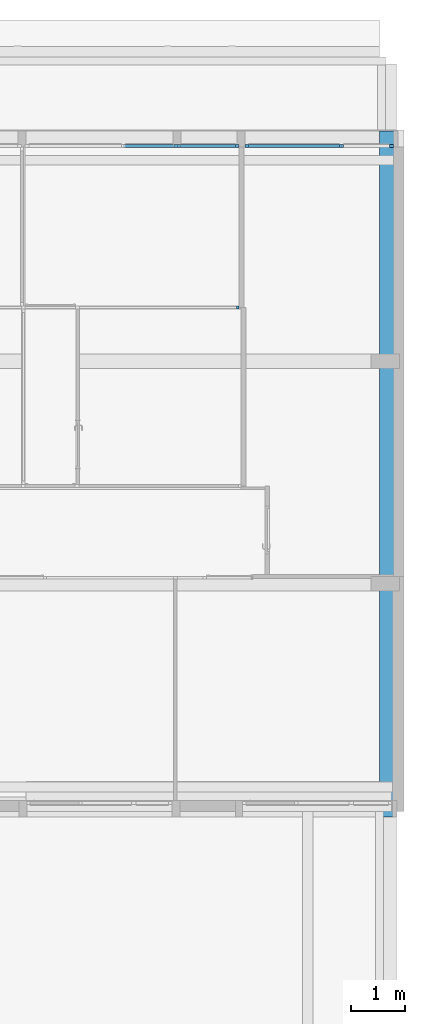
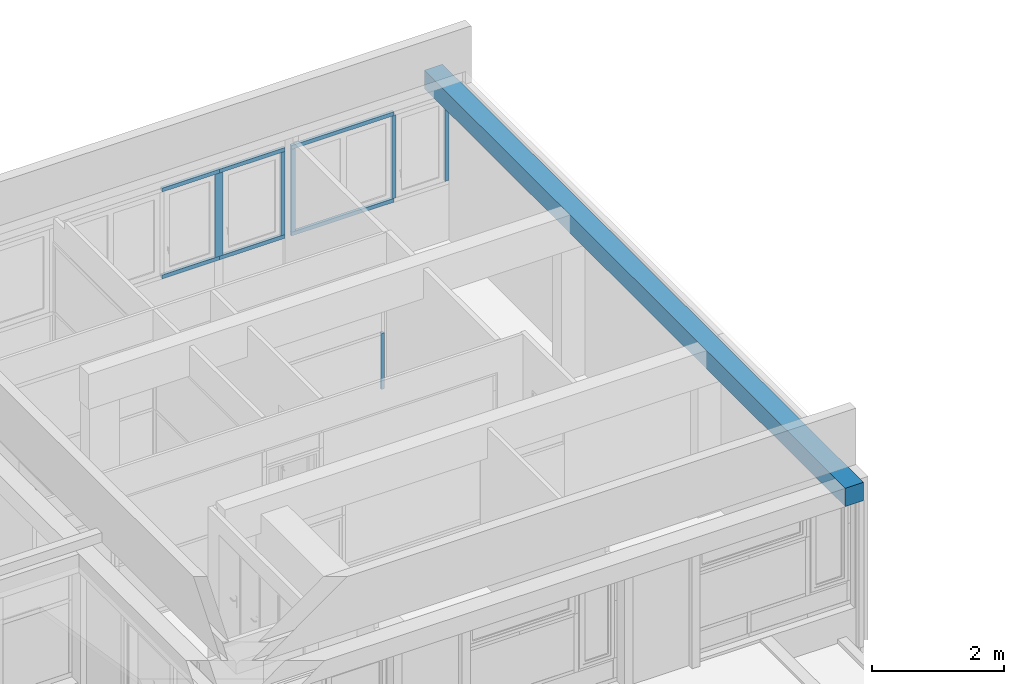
# One storey, part 13 of 49: 12 members, 1 beam, 3 elements without a shape of their own.
"""IFC4 building model written with IfcOpenShell, lengths in metres."""

import ifcopenshell
import ifcopenshell.guid

model = None  # the IFC model being written
_history = None  # IfcOwnerHistory: only IFC2X3 demands one
_inside = {}  # id of a spatial element -> (the spatial element, [elements in it])
_under = {}  # id of a project, library or spatial element -> (it, [spatial elements below it])
_declared = {}  # id of a project -> (the project, [libraries it declares])
_typed = {}  # id of a type object -> (the type object, [elements of that type])
_made_of = {}  # id of a material, layer set ... -> (it, [elements and type objects made of it])


def new_model(schema):
    """Start an empty IFC model of exactly this schema.

    Asked for "IFC4X3", IfcOpenShell would pick the latest addendum, in which some entities
    have other attributes; the version numbers below select the first issue.
    IFC2X3 requires an IfcOwnerHistory on every rooted entity: one is made here for all.
    """
    global model, _history
    if schema == "IFC4X3":
        model = ifcopenshell.file(schema_version=(4, 3, 0, 0))
    else:
        model = ifcopenshell.file(schema=schema)
    _inside.clear()
    _under.clear()
    _declared.clear()
    _typed.clear()
    _made_of.clear()
    _history = None
    if model.schema == "IFC2X3":
        org = make("IfcOrganization", Name="unknown")
        user = make(
            "IfcPersonAndOrganization",
            ThePerson=make("IfcPerson", FamilyName="unknown"),
            TheOrganization=org,
        )
        app = make(
            "IfcApplication",
            ApplicationDeveloper=org,
            Version="unknown",
            ApplicationFullName="unknown",
            ApplicationIdentifier="unknown",
        )
        _history = make(
            "IfcOwnerHistory",
            OwningUser=user,
            OwningApplication=app,
            ChangeAction="ADDED",
            CreationDate=0,
        )
    return model


def make(cls, **values):
    """One entity of the class cls with the attributes given. An attribute that is None is left unset."""
    return model.create_entity(
        cls, **{name: value for name, value in values.items() if value is not None}
    )


def entity(cls, *values):
    """Any entity or typed value of the class cls, its attributes in the order of the schema. None: left unset."""
    e = model.create_entity(cls)
    for i, value in enumerate(values):
        if value is not None:
            e[i] = value
    return e


def rooted(cls, **values):
    """An entity with a GlobalId (a new one), such as an element, a storey or a relation."""
    return make(cls, GlobalId=ifcopenshell.guid.new(), OwnerHistory=_history, **values)


def si_unit(unit_type, name, prefix=None):
    """IfcSIUnit, for example si_unit("LENGTHUNIT", "METRE", prefix="MILLI")."""
    return make("IfcSIUnit", UnitType=unit_type, Prefix=prefix, Name=name)


def converted_unit(unit_type, name, factor, base, dimensions=None, offset=None):
    """IfcConversionBasedUnit, such as the inch: factor (a typed value) times the base unit."""
    return make(
        "IfcConversionBasedUnit"
        if offset is None
        else "IfcConversionBasedUnitWithOffset",
        ConversionOffset=offset,
        Dimensions=None
        if dimensions is None
        else entity("IfcDimensionalExponents", *dimensions),
        UnitType=unit_type,
        Name=name,
        ConversionFactor=make(
            "IfcMeasureWithUnit", ValueComponent=factor, UnitComponent=base
        ),
    )


def derived_unit(unit_type, elements):
    """IfcDerivedUnit: a product of units, each with its exponent."""
    return make(
        "IfcDerivedUnit",
        Elements=[
            make("IfcDerivedUnitElement", Unit=unit, Exponent=power)
            for unit, power in elements
        ],
        UnitType=unit_type,
    )


def assignment(units):
    """IfcUnitAssignment: the units of a project."""
    return None if units is None else make("IfcUnitAssignment", Units=units)


def point(xyz):
    """IfcCartesianPoint."""
    return None if xyz is None else make("IfcCartesianPoint", Coordinates=xyz)


def direction(xyz):
    """IfcDirection."""
    return None if xyz is None else make("IfcDirection", DirectionRatios=xyz)


def frame(location, z_axis=None, x_axis=None):
    """IfcAxis2Placement3D, a coordinate frame: its origin and axes. An axis left out is left unset."""
    return make(
        "IfcAxis2Placement3D",
        Location=point(location),
        Axis=direction(z_axis),
        RefDirection=direction(x_axis),
    )


def origin():
    """The frame at (0, 0, 0) with its axes left unset."""
    return frame((0.0, 0.0, 0.0))


def place(relative_to, where):
    """IfcLocalPlacement: puts the frame where relative to a parent placement (None: the world)."""
    return make(
        "IfcLocalPlacement", PlacementRelTo=relative_to, RelativePlacement=where
    )


def context(
    kind, dimensions, precision=None, world=None, true_north=None, identifier=None
):
    """IfcGeometricRepresentationContext, for example the 3D "Model" context."""
    return make(
        "IfcGeometricRepresentationContext",
        ContextIdentifier=identifier,
        ContextType=kind,
        CoordinateSpaceDimension=dimensions,
        Precision=precision,
        WorldCoordinateSystem=world,
        TrueNorth=true_north,
    )


def subcontext(parent, identifier, kind, view, scale=None):
    """IfcGeometricRepresentationSubContext, for example "Body" below "Model"."""
    return make(
        "IfcGeometricRepresentationSubContext",
        ContextIdentifier=identifier,
        ContextType=kind,
        ParentContext=parent,
        TargetScale=scale,
        TargetView=view,
    )


def project(units=None, contexts=None):
    """IfcProject with its units and contexts."""
    return rooted(
        "IfcProject",
        Name="project",
        RepresentationContexts=contexts,
        UnitsInContext=assignment(units),
    )


def spatial(cls, under=None, at=None, **own):
    """A site, building, storey or space (cls), placed at a placement, below another one or the project."""
    s = rooted(cls, ObjectPlacement=at, **own)
    if under is not None:
        _under.setdefault(under.id(), (under, []))[1].append(s)
    return s


def point_list(points):
    """IfcCartesianPointList2D or 3D."""
    cls = (
        "IfcCartesianPointList2D" if len(points[0]) == 2 else "IfcCartesianPointList3D"
    )
    return make(cls, CoordList=points)


def indexed_curve(points, segments=None, self_intersect=None):
    """IfcIndexedPolyCurve: lines and arcs through numbered points (the first is 1)."""
    return make(
        "IfcIndexedPolyCurve",
        Points=point_list(points),
        Segments=segments,
        SelfIntersect=self_intersect,
    )


def outline(outer, holes=None, kind="AREA"):
    """IfcArbitraryClosedProfileDef: a profile drawn as a closed curve; with holes, ...WithVoids."""
    if holes is None:
        return make("IfcArbitraryClosedProfileDef", ProfileType=kind, OuterCurve=outer)
    return make(
        "IfcArbitraryProfileDefWithVoids",
        ProfileType=kind,
        OuterCurve=outer,
        InnerCurves=holes,
    )


def extrude(swept, where, along, depth):
    """IfcExtrudedAreaSolid: the profile swept, set in the frame where, extruded along a direction by depth."""
    return make(
        "IfcExtrudedAreaSolid",
        SweptArea=swept,
        Position=where,
        ExtrudedDirection=direction(along),
        Depth=depth,
    )


def shape(context_of_items, identifier, shape_type, items):
    """IfcShapeRepresentation: the items that make up one representation, for example the "Body"."""
    return make(
        "IfcShapeRepresentation",
        ContextOfItems=context_of_items,
        RepresentationIdentifier=identifier,
        RepresentationType=shape_type,
        Items=items,
    )


def source(mapping_origin, context_of_items, identifier, shape_type, items):
    """IfcRepresentationMap: a shape defined once, which mapped items show again and again."""
    return make(
        "IfcRepresentationMap",
        MappingOrigin=mapping_origin,
        MappedRepresentation=shape(context_of_items, identifier, shape_type, items),
    )


def transform(
    local_origin,
    x_axis=None,
    y_axis=None,
    z_axis=None,
    scale=None,
    scale2=None,
    scale3=None,
    uniform=True,
):
    """IfcCartesianTransformationOperator3D, or its non-uniform kind. x_axis, y_axis, z_axis: its Axis1, 2, 3."""
    if uniform:
        return make(
            "IfcCartesianTransformationOperator3D",
            Axis1=direction(x_axis),
            Axis2=direction(y_axis),
            LocalOrigin=point(local_origin),
            Scale=scale,
            Axis3=direction(z_axis),
        )
    return make(
        "IfcCartesianTransformationOperator3DnonUniform",
        Axis1=direction(x_axis),
        Axis2=direction(y_axis),
        LocalOrigin=point(local_origin),
        Scale=scale,
        Axis3=direction(z_axis),
        Scale2=scale2,
        Scale3=scale3,
    )


def mapped(mapping_source, mapping_target):
    """IfcMappedItem: shows the shape of a source again, moved by a transform."""
    return make(
        "IfcMappedItem", MappingSource=mapping_source, MappingTarget=mapping_target
    )


def material(Name=None, Category=None):
    """IfcMaterial."""
    return make("IfcMaterial", Name=Name, Category=Category)


def made_of(thing, what):
    """Note that an element or type object is made of a material, layer set ...; save() writes the relation."""
    if what is not None:
        _made_of.setdefault(what.id(), (what, []))[1].append(thing)
    return thing


def type_object(cls, material=None, **own):
    """A type object (cls), such as IfcWallType, which elements share."""
    return made_of(rooted(cls, **own), material)


def type_shapes(of_type, sources):
    """Give a type object the sources (RepresentationMaps) that its elements show as mapped items."""
    of_type.RepresentationMaps = sources


def element(
    cls,
    number,
    at=None,
    inside=None,
    cuts=None,
    type_object=None,
    material=None,
    context=None,
    identifier="Body",
    shape_type=None,
    held_by="IfcProductDefinitionShape",
    body=None,
    shapes=None,
    **own,
):
    """One element of the class cls, such as IfcWall. Its Tag is "e" and its number.

    at: its placement. inside: the storey or other place that contains it. cuts: it is an
    opening in that element (IfcRelVoidsElement). A single representation is given by context,
    identifier, shape_type and body (its items); several are given by shapes. held_by: the class
    of the entity that holds the representations. save() writes the other relations.
    """
    e = rooted(cls, Tag="e%d" % number, ObjectPlacement=at, **own)
    if body is not None:
        shapes = [shape(context, identifier, shape_type, body)]
    if shapes is not None:
        e.Representation = make(held_by, Representations=shapes)
    if inside is not None:
        _inside.setdefault(inside.id(), (inside, []))[1].append(e)
    if cuts is not None:
        rooted(
            "IfcRelVoidsElement", RelatingBuildingElement=cuts, RelatedOpeningElement=e
        )
    if type_object is not None:
        _typed.setdefault(type_object.id(), (type_object, []))[1].append(e)
    return made_of(e, material)


def aggregate(whole, parts):
    """IfcRelAggregates: a whole, such as a stair, and the parts it consists of."""
    return rooted("IfcRelAggregates", RelatingObject=whole, RelatedObjects=parts)


def save(model, path):
    """Write the relations noted so far, then the file.

    IfcRelAggregates (storeys below a building ...), IfcRelContainedInSpatialStructure (elements
    in a storey), IfcRelDefinesByType, IfcRelAssociatesMaterial and IfcRelDeclares: one each for
    every whole, place, type object, material and project.
    """
    for whole, parts in _under.values():
        aggregate(whole, parts)
    for where, things in _inside.values():
        rooted(
            "IfcRelContainedInSpatialStructure",
            RelatedElements=things,
            RelatingStructure=where,
        )
    for kind, things in _typed.values():
        rooted("IfcRelDefinesByType", RelatedObjects=things, RelatingType=kind)
    for what, things in _made_of.values():
        rooted("IfcRelAssociatesMaterial", RelatedObjects=things, RelatingMaterial=what)
    for by, libraries in _declared.values():
        rooted("IfcRelDeclares", RelatingContext=by, RelatedDefinitions=libraries)
    model.write(path)


model = new_model("IFC4")

# Units and contexts
model_context = context("Model", 3, precision=1e-05, world=origin(), true_north=direction((6.12303176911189e-17, 1.0)))
body_context = subcontext(model_context, "Body", "Model", "MODEL_VIEW")
ifc_project = project(units=[si_unit("LENGTHUNIT", "METRE"), si_unit("AREAUNIT", "SQUARE_METRE"), si_unit("VOLUMEUNIT", "CUBIC_METRE"), converted_unit("PLANEANGLEUNIT", "DEGREE", entity("IfcRatioMeasure", 0.0174532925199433), si_unit("PLANEANGLEUNIT", "RADIAN"), dimensions=[0, 0, 0, 0, 0, 0, 0]), si_unit("MASSUNIT", "GRAM", prefix="KILO"), derived_unit("MASSDENSITYUNIT", [(si_unit("MASSUNIT", "GRAM", prefix="KILO"), 1), (si_unit("LENGTHUNIT", "METRE"), -3)]), derived_unit("MOMENTOFINERTIAUNIT", [(si_unit("LENGTHUNIT", "METRE"), 4)]), si_unit("TIMEUNIT", "SECOND"), si_unit("FREQUENCYUNIT", "HERTZ"), si_unit("THERMODYNAMICTEMPERATUREUNIT", "DEGREE_CELSIUS"), derived_unit("THERMALTRANSMITTANCEUNIT", [(si_unit("MASSUNIT", "GRAM", prefix="KILO"), 1), (si_unit("THERMODYNAMICTEMPERATUREUNIT", "KELVIN"), -1), (si_unit("TIMEUNIT", "SECOND"), -3)]), derived_unit("VOLUMETRICFLOWRATEUNIT", [(si_unit("LENGTHUNIT", "METRE"), 3), (si_unit("TIMEUNIT", "SECOND"), -1)]), si_unit("ELECTRICCURRENTUNIT", "AMPERE"), si_unit("ELECTRICVOLTAGEUNIT", "VOLT"), si_unit("POWERUNIT", "WATT"), si_unit("FORCEUNIT", "NEWTON", prefix="KILO"), si_unit("ILLUMINANCEUNIT", "LUX"), si_unit("LUMINOUSFLUXUNIT", "LUMEN"), si_unit("LUMINOUSINTENSITYUNIT", "CANDELA"), derived_unit("USERDEFINED", [(si_unit("MASSUNIT", "GRAM", prefix="KILO"), -1), (si_unit("LENGTHUNIT", "METRE"), -2), (si_unit("TIMEUNIT", "SECOND"), 3), (si_unit("LUMINOUSFLUXUNIT", "LUMEN"), 1)]), derived_unit("LINEARVELOCITYUNIT", [(si_unit("LENGTHUNIT", "METRE"), 1), (si_unit("TIMEUNIT", "SECOND"), -1)]), si_unit("PRESSUREUNIT", "PASCAL"), derived_unit("USERDEFINED", [(si_unit("LENGTHUNIT", "METRE"), -2), (si_unit("MASSUNIT", "GRAM", prefix="KILO"), 1), (si_unit("TIMEUNIT", "SECOND"), -2)]), derived_unit("LINEARFORCEUNIT", [(si_unit("MASSUNIT", "GRAM", prefix="KILO"), 1), (si_unit("LENGTHUNIT", "METRE"), 1), (si_unit("TIMEUNIT", "SECOND"), -2), (si_unit("LENGTHUNIT", "METRE"), -1)]), derived_unit("PLANARFORCEUNIT", [(si_unit("MASSUNIT", "GRAM", prefix="KILO"), 1), (si_unit("LENGTHUNIT", "METRE"), 1), (si_unit("TIMEUNIT", "SECOND"), -2), (si_unit("LENGTHUNIT", "METRE"), -2)])], contexts=[model_context])

# Site, building, storey
site_placement = place(None, origin())
site = spatial("IfcSite", under=ifc_project, at=site_placement, Name="Default", CompositionType="ELEMENT")
building_placement = place(site_placement, origin())
building = spatial("IfcBuilding", under=site, at=building_placement, Name="HOTEL CONSULAIRE BOULOGNE SUR MER", CompositionType="ELEMENT")
storey_placement = place(building_placement, frame((0.0, 0.0, 6.81974152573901)))
storey = spatial("IfcBuildingStorey", under=building, at=storey_placement, Name="Niveau 2", CompositionType="ELEMENT", Elevation=6.81974152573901)

# Curtain wall, members
curtain_wall_type = type_object("IfcCurtainWallType", Name="Mur-rideau:Simple panneau", PredefinedType="NOTDEFINED")
curtain_wall_1_placement = place(storey_placement, frame((0.0, 0.0, -6.81974152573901)))
curtain_wall_1 = element("IfcCurtainWall", 1, at=curtain_wall_1_placement, inside=storey, type_object=curtain_wall_type, Name="Mur-rideau:Simple panneau", ObjectType="Mur-rideau:Simple panneau", PredefinedType="NOTDEFINED")
ifc_material_1 = material(Name="PVC, souple", Category="Plastique")
member_type_1 = type_object("IfcMemberType", Name="Meneau rectangulaire:50 x 35 pvc gris", PredefinedType="MULLION", material=ifc_material_1)
shared_shape_1 = source(origin(), body_context, "Body", "SweptSolid", [
    extrude(outline(indexed_curve([(-0.025, -0.035), (0.025, -0.035), (0.025, 0.035), (-0.025, 0.035), (-0.025, -0.035)], self_intersect=False)), frame((-0.035, -0.025, -1.53628724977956), z_axis=(0.0, 0.0, 1.0), x_axis=(0.0, -1.0, 0.0)), (0.0, 0.0, 1.0), 1.53628724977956),
])
type_shapes(member_type_1, [shared_shape_1])
member_1_placement = place(storey_placement, frame((22.5979359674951, -11.5914237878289, 2.6419999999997)))
member_1 = element("IfcMember", 2, at=member_1_placement, type_object=member_type_1, material=ifc_material_1, Name="Meneau rectangulaire:50 x 35 pvc gris", ObjectType="Meneau rectangulaire:50 x 35 pvc gris", PredefinedType="MULLION", context=body_context, shape_type="MappedRepresentation", body=[
    mapped(shared_shape_1, transform((0.0, 0.0, 0.0), scale=1.0)),
])
member_type_2 = type_object("IfcMemberType", Name="Meneau rectangulaire:50 x 35 pvc gris", PredefinedType="MULLION", material=ifc_material_1)
shared_shape_2 = source(origin(), body_context, "Body", "SweptSolid", [
    extrude(outline(indexed_curve([(-0.025, -0.035), (0.025, -0.035), (0.025, 0.035), (-0.025, 0.035), (-0.025, -0.035)], self_intersect=False)), frame((-0.035, -0.025, -1.80111445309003), z_axis=(0.0, 0.0, 1.0), x_axis=(0.0, -1.0, 0.0)), (0.0, 0.0, 1.0), 1.80111445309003),
])
type_shapes(member_type_2, [shared_shape_2])
member_2_placement = place(storey_placement, frame((19.831821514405, -11.5914237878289, 2.7119999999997), z_axis=(-1.0, 0.0, 0.0), x_axis=(0.0, 0.0, 1.0)))
member_2 = element("IfcMember", 3, at=member_2_placement, type_object=member_type_2, material=ifc_material_1, Name="Meneau rectangulaire:50 x 35 pvc gris", ObjectType="Meneau rectangulaire:50 x 35 pvc gris", PredefinedType="MULLION", context=body_context, shape_type="MappedRepresentation", body=[
    mapped(shared_shape_2, transform((0.0, 0.0, 0.0), scale=1.0)),
])
member_type_3 = type_object("IfcMemberType", Name="Meneau rectangulaire:50 x 35 pvc gris", PredefinedType="MULLION", material=ifc_material_1)
shared_shape_3 = source(origin(), body_context, "Body", "SweptSolid", [
    extrude(outline(indexed_curve([(-0.025, -0.035), (0.025, -0.035), (0.025, 0.035), (-0.025, 0.035), (-0.025, -0.035)], self_intersect=False)), frame((-0.035, -0.025, -1.53628724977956), z_axis=(0.0, 0.0, 1.0), x_axis=(0.0, -1.0, 0.0)), (0.0, 0.0, 1.0), 1.53628724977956),
])
type_shapes(member_type_3, [shared_shape_3])
member_3_placement = place(storey_placement, frame((19.831821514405, -11.5914237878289, 1.10571275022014), z_axis=(0.0, 0.0, -1.0), x_axis=(-1.0, 0.0, 0.0)))
member_3 = element("IfcMember", 4, at=member_3_placement, type_object=member_type_3, material=ifc_material_1, Name="Meneau rectangulaire:50 x 35 pvc gris", ObjectType="Meneau rectangulaire:50 x 35 pvc gris", PredefinedType="MULLION", context=body_context, shape_type="MappedRepresentation", body=[
    mapped(shared_shape_3, transform((0.0, 0.0, 0.0), scale=1.0)),
])
member_type_4 = type_object("IfcMemberType", Name="Meneau rectangulaire:50 x 35 pvc gris", PredefinedType="MULLION", material=ifc_material_1)
shared_shape_4 = source(origin(), body_context, "Body", "SweptSolid", [
    extrude(outline(indexed_curve([(-0.025, -0.035), (0.025, -0.035), (0.025, 0.035), (-0.025, 0.035), (-0.025, -0.035)], self_intersect=False)), frame((-0.035, -0.025, -1.80111445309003), z_axis=(0.0, 0.0, 1.0), x_axis=(0.0, -1.0, 0.0)), (0.0, 0.0, 1.0), 1.80111445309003),
])
type_shapes(member_type_4, [shared_shape_4])
member_4_placement = place(storey_placement, frame((21.6329359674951, -11.5914237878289, 1.03571275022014), z_axis=(1.0, 0.0, 0.0), x_axis=(0.0, 0.0, -1.0)))
member_4 = element("IfcMember", 5, at=member_4_placement, type_object=member_type_4, material=ifc_material_1, Name="Meneau rectangulaire:50 x 35 pvc gris", ObjectType="Meneau rectangulaire:50 x 35 pvc gris", PredefinedType="MULLION", context=body_context, shape_type="MappedRepresentation", body=[
    mapped(shared_shape_4, transform((0.0, 0.0, 0.0), scale=1.0)),
])
ifc_material_2 = material(Name="PVC - Blanc", Category="Plastique")
member_type_5 = type_object("IfcMemberType", Name="Meneau rectangulaire:50 x 35", PredefinedType="MULLION", material=ifc_material_2)
shared_shape_5 = source(origin(), body_context, "Body", "SweptSolid", [
    extrude(outline(indexed_curve([(-0.025, -0.035), (0.025, -0.035), (0.025, 0.035), (-0.025, 0.035), (-0.025, -0.035)], self_intersect=False)), frame((0.0, -0.025, -1.53628724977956), z_axis=(0.0, 0.0, 1.0), x_axis=(0.0, -1.0, 0.0)), (0.0, 0.0, 1.0), 1.53628724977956),
])
type_shapes(member_type_5, [shared_shape_5])
member_5_placement = place(storey_placement, frame((21.6329359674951, -11.5914237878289, 1.10571275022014), z_axis=(0.0, 0.0, -1.0), x_axis=(-1.0, 0.0, 0.0)))
member_5 = element("IfcMember", 6, at=member_5_placement, type_object=member_type_5, material=ifc_material_2, Name="Meneau rectangulaire:50 x 35", ObjectType="Meneau rectangulaire:50 x 35", PredefinedType="MULLION", context=body_context, shape_type="MappedRepresentation", body=[
    mapped(shared_shape_5, transform((0.0, 0.0, 0.0), scale=1.0)),
])
aggregate(curtain_wall_1, [member_1, member_2, member_3, member_4, member_5])

curtain_wall_2_placement = place(storey_placement, frame((0.0, 0.0, -6.81974152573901)))
curtain_wall_2 = element("IfcCurtainWall", 7, at=curtain_wall_2_placement, inside=storey, type_object=curtain_wall_type, Name="Mur-rideau:Simple panneau", ObjectType="Mur-rideau:Simple panneau", PredefinedType="NOTDEFINED")
member_type_6 = type_object("IfcMemberType", Name="Meneau rectangulaire:50 x 35 pvc gris", PredefinedType="MULLION", material=ifc_material_1)
shared_shape_6 = source(origin(), body_context, "Body", "SweptSolid", [
    extrude(outline(indexed_curve([(-0.025, -0.035), (0.025, -0.035), (0.025, 0.035), (-0.025, 0.035), (-0.025, -0.035)], self_intersect=False)), frame((-0.035, -0.025, -1.54128724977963), z_axis=(0.0, 0.0, 1.0), x_axis=(0.0, -1.0, 0.0)), (0.0, 0.0, 1.0), 1.54128724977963),
])
type_shapes(member_type_6, [shared_shape_6])
member_6_placement = place(storey_placement, frame((19.722821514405, -11.5914237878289, 2.64699999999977)))
member_6 = element("IfcMember", 8, at=member_6_placement, type_object=member_type_6, material=ifc_material_1, Name="Meneau rectangulaire:50 x 35 pvc gris", ObjectType="Meneau rectangulaire:50 x 35 pvc gris", PredefinedType="MULLION", context=body_context, shape_type="MappedRepresentation", body=[
    mapped(shared_shape_6, transform((0.0, 0.0, 0.0), scale=1.0)),
])
member_type_7 = type_object("IfcMemberType", Name="Meneau rectangulaire:50 x 65 pvc gris", PredefinedType="MULLION", material=ifc_material_1)
shared_shape_7 = source(origin(), body_context, "Body", "SweptSolid", [
    extrude(outline(indexed_curve([(-0.025, -0.065), (0.025, -0.065), (0.025, 0.065), (-0.025, 0.065), (-0.025, -0.065)], self_intersect=False)), frame((0.0, -0.025, -1.54128724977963), z_axis=(0.0, 0.0, 1.0), x_axis=(0.0, -1.0, 0.0)), (0.0, 0.0, 1.0), 1.54128724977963),
])
type_shapes(member_type_7, [shared_shape_7])
member_7_placement = place(storey_placement, frame((18.5684052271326, -11.5914237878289, 1.10571275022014), z_axis=(0.0, 0.0, -1.0), x_axis=(-1.0, 0.0, 0.0)))
member_7 = element("IfcMember", 9, at=member_7_placement, type_object=member_type_7, material=ifc_material_1, Name="Meneau rectangulaire:50 x 65 pvc gris", ObjectType="Meneau rectangulaire:50 x 65 pvc gris", PredefinedType="MULLION", context=body_context, shape_type="MappedRepresentation", body=[
    mapped(shared_shape_7, transform((0.0, 0.0, 0.0), scale=1.0)),
])
member_type_8 = type_object("IfcMemberType", Name="Meneau rectangulaire:50 x 35 pvc gris", PredefinedType="MULLION", material=ifc_material_1)
shared_shape_8 = source(origin(), body_context, "Body", "SweptSolid", [
    extrude(outline(indexed_curve([(-0.025, -0.035), (0.025, -0.035), (0.025, 0.035), (-0.025, 0.035), (-0.025, -0.035)], self_intersect=False)), frame((-0.035, -0.025, -1.004), z_axis=(0.0, 0.0, 1.0), x_axis=(0.0, -1.0, 0.0)), (0.0, 0.0, 1.0), 1.004),
])
type_shapes(member_type_8, [shared_shape_8])
member_8_placement = place(storey_placement, frame((18.5684052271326, -11.5914237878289, 1.03571275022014), z_axis=(1.0, 0.0, 0.0), x_axis=(0.0, 0.0, -1.0)))
member_8 = element("IfcMember", 10, at=member_8_placement, type_object=member_type_8, material=ifc_material_1, Name="Meneau rectangulaire:50 x 35 pvc gris", ObjectType="Meneau rectangulaire:50 x 35 pvc gris", PredefinedType="MULLION", context=body_context, shape_type="MappedRepresentation", body=[
    mapped(shared_shape_8, transform((0.0, 0.0, 0.0), scale=1.0)),
])
member_type_9 = type_object("IfcMemberType", Name="Meneau rectangulaire:50 x 35 pvc gris", PredefinedType="MULLION", material=ifc_material_1)
shared_shape_9 = source(origin(), body_context, "Body", "SweptSolid", [
    extrude(outline(indexed_curve([(-0.025, -0.035), (0.025, -0.035), (0.025, 0.035), (-0.025, 0.035), (-0.025, -0.035)], self_intersect=False)), frame((-0.035, -0.025, -1.004), z_axis=(0.0, 0.0, 1.0), x_axis=(0.0, -1.0, 0.0)), (0.0, 0.0, 1.0), 1.004),
])
type_shapes(member_type_9, [shared_shape_9])
member_9_placement = place(storey_placement, frame((17.5644052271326, -11.5914237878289, 2.71699999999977), z_axis=(-1.0, 0.0, 0.0), x_axis=(0.0, 0.0, 1.0)))
member_9 = element("IfcMember", 11, at=member_9_placement, type_object=member_type_9, material=ifc_material_1, Name="Meneau rectangulaire:50 x 35 pvc gris", ObjectType="Meneau rectangulaire:50 x 35 pvc gris", PredefinedType="MULLION", context=body_context, shape_type="MappedRepresentation", body=[
    mapped(shared_shape_9, transform((0.0, 0.0, 0.0), scale=1.0)),
])
member_type_10 = type_object("IfcMemberType", Name="Meneau rectangulaire:50 x 35 pvc gris", PredefinedType="MULLION", material=ifc_material_1)
shared_shape_10 = source(origin(), body_context, "Body", "SweptSolid", [
    extrude(outline(indexed_curve([(-0.025, -0.035), (0.025, -0.035), (0.025, 0.035), (-0.025, 0.035), (-0.025, -0.035)], self_intersect=False)), frame((-0.035, -0.025, -1.15441628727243), z_axis=(0.0, 0.0, 1.0), x_axis=(0.0, -1.0, 0.0)), (0.0, 0.0, 1.0), 1.15441628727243),
])
type_shapes(member_type_10, [shared_shape_10])
member_10_placement = place(storey_placement, frame((19.722821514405, -11.5914237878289, 1.03571275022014), z_axis=(1.0, 0.0, 0.0), x_axis=(0.0, 0.0, -1.0)))
member_10 = element("IfcMember", 12, at=member_10_placement, type_object=member_type_10, material=ifc_material_1, Name="Meneau rectangulaire:50 x 35 pvc gris", ObjectType="Meneau rectangulaire:50 x 35 pvc gris", PredefinedType="MULLION", context=body_context, shape_type="MappedRepresentation", body=[
    mapped(shared_shape_10, transform((0.0, 0.0, 0.0), scale=1.0)),
])
member_type_11 = type_object("IfcMemberType", Name="Meneau rectangulaire:50 x 35 pvc gris", PredefinedType="MULLION", material=ifc_material_1)
shared_shape_11 = source(origin(), body_context, "Body", "SweptSolid", [
    extrude(outline(indexed_curve([(-0.025, -0.035), (0.025, -0.035), (0.025, 0.035), (-0.025, 0.035), (-0.025, -0.035)], self_intersect=False)), frame((-0.035, -0.025, -1.15441628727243), z_axis=(0.0, 0.0, 1.0), x_axis=(0.0, -1.0, 0.0)), (0.0, 0.0, 1.0), 1.15441628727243),
])
type_shapes(member_type_11, [shared_shape_11])
member_11_placement = place(storey_placement, frame((18.5684052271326, -11.5914237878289, 2.71699999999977), z_axis=(-1.0, 0.0, 0.0), x_axis=(0.0, 0.0, 1.0)))
member_11 = element("IfcMember", 13, at=member_11_placement, type_object=member_type_11, material=ifc_material_1, Name="Meneau rectangulaire:50 x 35 pvc gris", ObjectType="Meneau rectangulaire:50 x 35 pvc gris", PredefinedType="MULLION", context=body_context, shape_type="MappedRepresentation", body=[
    mapped(shared_shape_11, transform((0.0, 0.0, 0.0), scale=1.0)),
])
aggregate(curtain_wall_2, [member_6, member_10, member_7, member_8, member_9, member_11])

# Beam
ifc_material_3 = material(Name="Béton - Béton coulé sur place", Category="Béton")
beam_type = type_object("IfcBeamType", Name="Poutre rectangulaire - Béton:320x340", PredefinedType="BEAM", material=ifc_material_3)
shared_shape_12 = source(origin(), body_context, "Body", "SweptSolid", [
    extrude(outline(indexed_curve([(-0.160000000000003, -0.169999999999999), (0.160000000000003, -0.169999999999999), (0.159999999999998, 0.17), (-0.160000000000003, 0.17), (-0.160000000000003, -0.169999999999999)], self_intersect=False)), frame((22.4986382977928, -24.1271007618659, 9.70174152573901), z_axis=(0.0, 1.0, 0.0), x_axis=(-1.0, 0.0, 0.0)), (0.0, 0.0, 1.0), 12.790676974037),
])
type_shapes(beam_type, [shared_shape_12])
beam_placement = place(storey_placement, frame((0.0, 0.0, -6.81974152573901)))
element("IfcBeam", 14, at=beam_placement, inside=storey, type_object=beam_type, material=ifc_material_3, Name="Poutre rectangulaire - Béton:320x340", ObjectType="Poutre rectangulaire - Béton:320x340", PredefinedType="BEAM", context=body_context, shape_type="MappedRepresentation", body=[
    mapped(shared_shape_12, transform((0.0, 0.0, 0.0), scale=1.0)),
])

# Curtain wall, member
curtain_wall_3_placement = place(storey_placement, frame((0.0, 0.0, -6.81974152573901)))
curtain_wall_3 = element("IfcCurtainWall", 15, at=curtain_wall_3_placement, inside=storey, type_object=curtain_wall_type, Name="Mur-rideau:Simple panneau", ObjectType="Mur-rideau:Simple panneau", PredefinedType="NOTDEFINED")
member_type_12 = type_object("IfcMemberType", Name="Meneau rectangulaire:50 x 25mm", PredefinedType="MULLION", material=ifc_material_2)
shared_shape_13 = source(origin(), body_context, "Body", "SweptSolid", [
    extrude(outline(indexed_curve([(-0.025, -0.025), (0.025, -0.025), (0.025, 0.025), (-0.025, 0.025), (-0.025, -0.025)], self_intersect=False)), frame((-0.025, -0.025, -1.041), z_axis=(0.0, 0.0, 1.0), x_axis=(0.0, -1.0, 0.0)), (0.0, 0.0, 1.0), 1.041),
])
type_shapes(member_type_12, [shared_shape_13])
member_12_placement = place(storey_placement, frame((19.722821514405, -14.6024237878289, 1.111)))
member_12 = element("IfcMember", 16, at=member_12_placement, type_object=member_type_12, material=ifc_material_2, Name="Meneau rectangulaire:50 x 25mm", ObjectType="Meneau rectangulaire:50 x 25mm", PredefinedType="MULLION", context=body_context, shape_type="MappedRepresentation", body=[
    mapped(shared_shape_13, transform((0.0, 0.0, 0.0), scale=1.0)),
])
aggregate(curtain_wall_3, [member_12])

save(model, "model.ifc")
